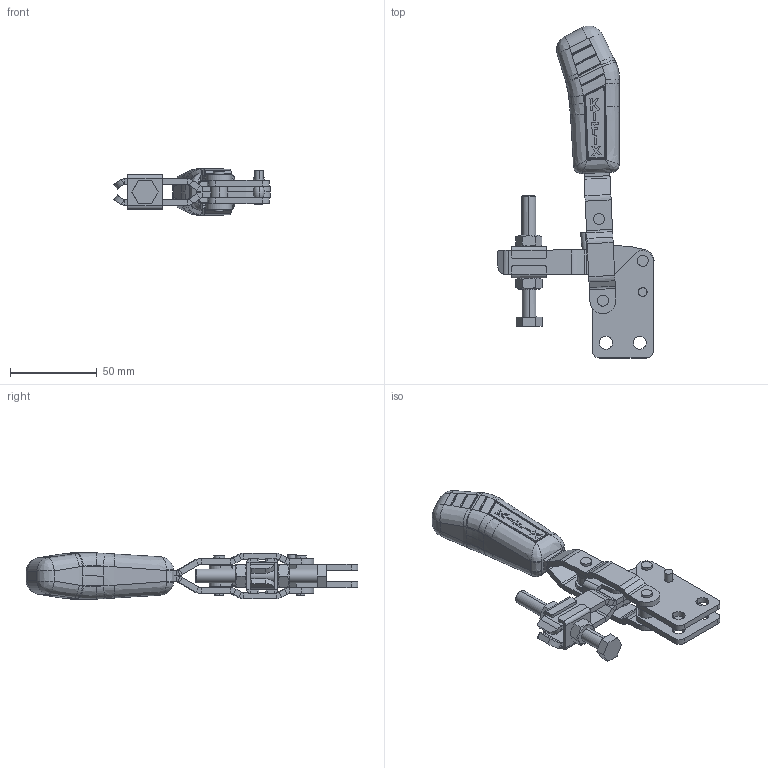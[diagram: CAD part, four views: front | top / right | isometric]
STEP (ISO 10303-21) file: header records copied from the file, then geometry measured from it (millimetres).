
FILE_DESCRIPTION (( 'STEP AP203' ), '1' );
FILE_NAME ('KF-016 RB.STEP', '2014-07-28T16:17:38', ( 'Ricardo' ), ( '' ), 'SwSTEP 2.0', 'SolidWorks 2013', '' );
FILE_SCHEMA (( 'CONFIG_CONTROL_DESIGN' ));
Length unit declared in the file: millimetre
Products named in the file (14): 05.20046; KF-016 RB; 01.10140; 04.10001; 06.50002; 14.10001; 04.20011; 02.11067; 03.13038_Direita; 11.50002; 03.13038_Esquerda; 12.50003; 06.50001; 07.60001
Assembly tree (20 placements, depth 2):
  KF-016 RB
    02.11067  x2
    03.13038_Direita
    03.13038_Esquerda
    06.50001  x2
    05.20046  x2
    01.10140  x2
    04.10001
    06.50002  x2
    04.20011
    14.10001  x2
    11.50002  x2
    12.50003
    07.60001
Bounding box: 90.11 x 191.43 x 27.02 mm (x, y, z)
Volume: 89447.6 mm3; surface area: 47844.6 mm2
Topology: 20 solids, 20 shells, 788 faces, 1909 edges, 1176 vertices
Faces by surface type: plane 366, cylinder 249, bspline 130, cone 38, torus 5
Entity records: 23686 total; most frequent: CARTESIAN_POINT 8548, ORIENTED_EDGE 3066, DIRECTION 2389, EDGE_CURVE 1533, VERTEX_POINT 958, AXIS2_PLACEMENT_3D 845, VECTOR 699, LINE 699
